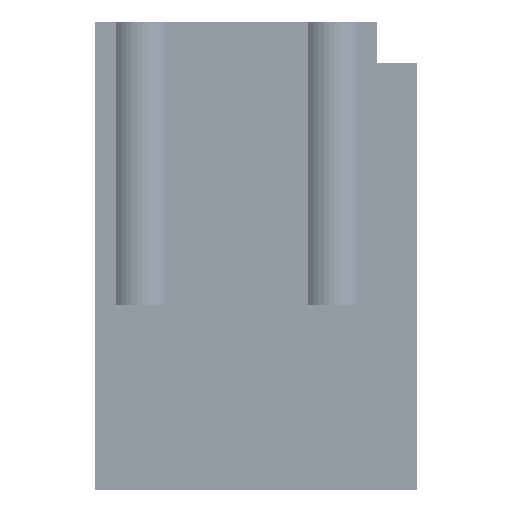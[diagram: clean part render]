
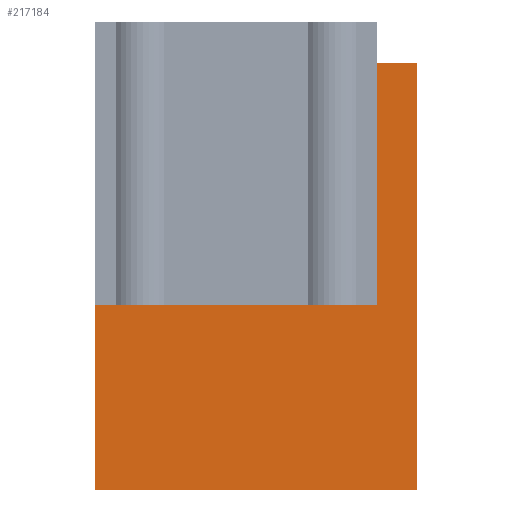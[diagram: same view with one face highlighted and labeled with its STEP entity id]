
A CAD part, front view. The second image highlights one B-rep face of the part: STEP entity #217184.
In plain terms, the highlighted planar face has unit normal (0, -1, 0).
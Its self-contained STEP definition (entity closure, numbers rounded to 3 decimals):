
#100824 = CARTESIAN_POINT ( 'NONE',  ( -987.776, -395., 15. ) ) ;
#102166 = CARTESIAN_POINT ( 'NONE',  ( -987.776, -395., -1285. ) ) ;
#102209 = CARTESIAN_POINT ( 'NONE',  ( 1267.776, -395., -1285. ) ) ;
#102210 = DIRECTION ( 'NONE',  ( 0., 0., -1. ) ) ;
#102211 = VECTOR ( 'NONE', #102210, 1000. ) ;
#102212 = CARTESIAN_POINT ( 'NONE',  ( 1267.776, -395., 1715. ) ) ;
#102216 = AXIS2_PLACEMENT_3D ( 'NONE', #102280, #102279, #102278 ) ;
#102220 = FACE_OUTER_BOUND ( 'NONE', #217210, .T. ) ;
#102222 = PLANE ( 'NONE',  #102216 ) ;
#102245 = DIRECTION ( 'NONE',  ( 0., 0., 1. ) ) ;
#102246 = VECTOR ( 'NONE', #102245, 1000. ) ;
#102247 = CARTESIAN_POINT ( 'NONE',  ( -987.776, -395., 15. ) ) ;
#102249 = LINE ( 'NONE', #102247, #102246 ) ;
#102253 = LINE ( 'NONE', #102212, #102211 ) ;
#102254 = CARTESIAN_POINT ( 'NONE',  ( 987.776, -395., 1715. ) ) ;
#102255 = CARTESIAN_POINT ( 'NONE',  ( 1267.776, -395., 1715. ) ) ;
#102263 = DIRECTION ( 'NONE',  ( -1., 0., 0. ) ) ;
#102264 = VECTOR ( 'NONE', #102263, 1000. ) ;
#102272 = DIRECTION ( 'NONE',  ( 0., 0., -1. ) ) ;
#102273 = VECTOR ( 'NONE', #102272, 1000. ) ;
#102274 = CARTESIAN_POINT ( 'NONE',  ( 987.776, -395., 1715. ) ) ;
#102276 = CARTESIAN_POINT ( 'NONE',  ( 987.776, -395., 1715. ) ) ;
#102277 = LINE ( 'NONE', #102276, #102264 ) ;
#102278 = DIRECTION ( 'NONE',  ( 0., 0., 1. ) ) ;
#102279 = DIRECTION ( 'NONE',  ( 0., 1., 0. ) ) ;
#102280 = CARTESIAN_POINT ( 'NONE',  ( 2287.862, -395., 15. ) ) ;
#102283 = LINE ( 'NONE', #102274, #102273 ) ;
#102367 = DIRECTION ( 'NONE',  ( -1., 0., 0. ) ) ;
#102368 = VECTOR ( 'NONE', #102367, 1000. ) ;
#102371 = CARTESIAN_POINT ( 'NONE',  ( 2287.862, -395., 15. ) ) ;
#102372 = LINE ( 'NONE', #102371, #102368 ) ;
#102379 = CARTESIAN_POINT ( 'NONE',  ( 987.776, -395., 15. ) ) ;
#102476 = DIRECTION ( 'NONE',  ( -1., 0., 0. ) ) ;
#102477 = VECTOR ( 'NONE', #102476, 1000. ) ;
#102479 = CARTESIAN_POINT ( 'NONE',  ( 2287.862, -395., -1285. ) ) ;
#102480 = LINE ( 'NONE', #102479, #102477 ) ;
#216778 = VERTEX_POINT ( 'NONE', #100824 ) ;
#217146 = VERTEX_POINT ( 'NONE', #102166 ) ;
#217161 = EDGE_CURVE ( 'NONE', #217146, #216778, #102249, .T. ) ;
#217171 = ORIENTED_EDGE ( 'NONE', *, *, #217193, .T. ) ;
#217174 = VERTEX_POINT ( 'NONE', #102254 ) ;
#217177 = EDGE_CURVE ( 'NONE', #217179, #217181, #102253, .T. ) ;
#217179 = VERTEX_POINT ( 'NONE', #102255 ) ;
#217180 = ORIENTED_EDGE ( 'NONE', *, *, #217189, .T. ) ;
#217181 = VERTEX_POINT ( 'NONE', #102209 ) ;
#217184 = ADVANCED_FACE ( 'NONE', ( #102220 ), #102222, .F. ) ;
#217186 = EDGE_CURVE ( 'NONE', #217174, #217238, #102283, .T. ) ;
#217187 = ORIENTED_EDGE ( 'NONE', *, *, #217177, .F. ) ;
#217188 = ORIENTED_EDGE ( 'NONE', *, *, #217186, .T. ) ;
#217189 = EDGE_CURVE ( 'NONE', #217179, #217174, #102277, .T. ) ;
#217193 = EDGE_CURVE ( 'NONE', #217238, #216778, #102372, .T. ) ;
#217203 = ORIENTED_EDGE ( 'NONE', *, *, #217241, .F. ) ;
#217210 = EDGE_LOOP ( 'NONE', ( #217203, #217187, #217180, #217188, #217171, #217302 ) ) ;
#217238 = VERTEX_POINT ( 'NONE', #102379 ) ;
#217241 = EDGE_CURVE ( 'NONE', #217181, #217146, #102480, .T. ) ;
#217302 = ORIENTED_EDGE ( 'NONE', *, *, #217161, .F. ) ;
